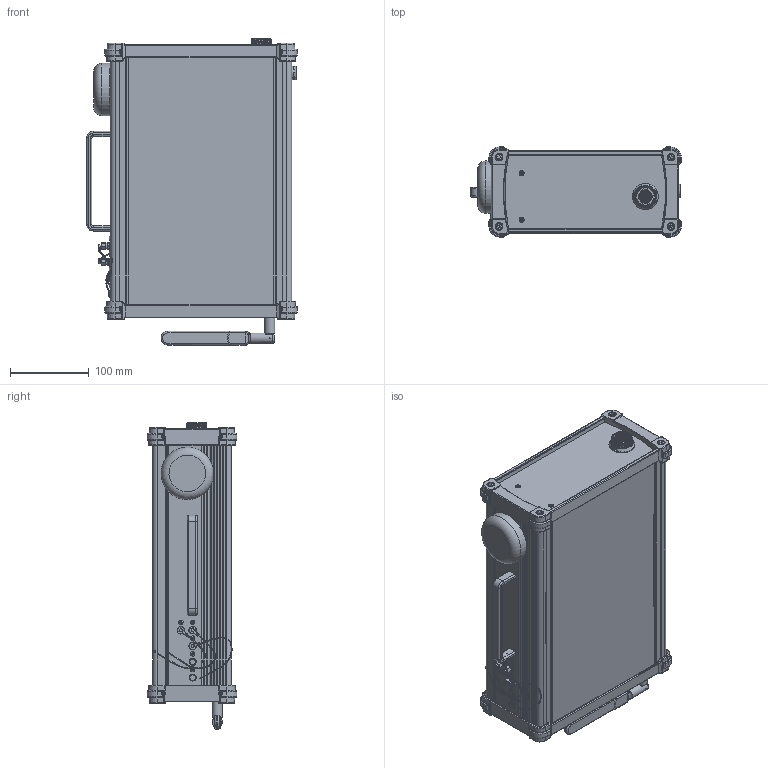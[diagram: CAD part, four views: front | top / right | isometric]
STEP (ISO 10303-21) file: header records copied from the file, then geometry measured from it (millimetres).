
FILE_DESCRIPTION(/* description */ (''),/* implementation_level */ '2;1');
FILE_NAME(/* name */ 'C:\RELEASES\PCS\3d_PCS\211010\BASIC-211010\BASIC211010_website\3d_PCS - BASIC - Stand alone - Dummy.stp',/* time_stamp */ '2023-02-16T08:50:58+01:00',/* author */ ('cda1'),/* organization */ (''),/* preprocessor_version */ 'ST-DEVELOPER v17',/* originating_system */ 'Autodesk Inventor 2018',/* authorisation */ '');
FILE_SCHEMA (('AUTOMOTIVE_DESIGN { 1 0 10303 214 3 1 1 }'));
Products named in the file (1): 3d_PCS -  BASIC - Stand alone - Dummy
Bounding box: 267 x 114 x 388.32 mm (x, y, z)
Volume: 1108714.2 mm3; surface area: 795408.9 mm2
Topology: 58 solids, 62 shells, 3681 faces, 9284 edges, 5915 vertices
Faces by surface type: plane 1395, cylinder 1270, bspline 459, torus 243, cone 162, sphere 152
Full cylindrical faces by diameter (mm): 0.7 x68, 0.92 x4, 1 x4, 1.15 x68, 1.442 x2, 2 x2, 2.013 x3, 2.459 x5, 2.5 x6, 3 x7, 3.3 x2, 4 x3, 4.2 x4, 4.5 x2, 5 x8, 5.2 x8, 5.5 x8, 5.7 x5, 5.84 x3, 6 x14, 6.223 x1, 6.5 x6, 7.2 x6, 7.4 x4, 7.84 x3, 8.5 x8, 9 x2, 9.5 x4, 10 x2, 12 x1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
Entity records: 143423 total; most frequent: CARTESIAN_POINT 51034, DIRECTION 18621, ORIENTED_EDGE 18494, EDGE_CURVE 9255, AXIS2_PLACEMENT_3D 7167, VERTEX_POINT 5915, LINE 4287, VECTOR 4287
